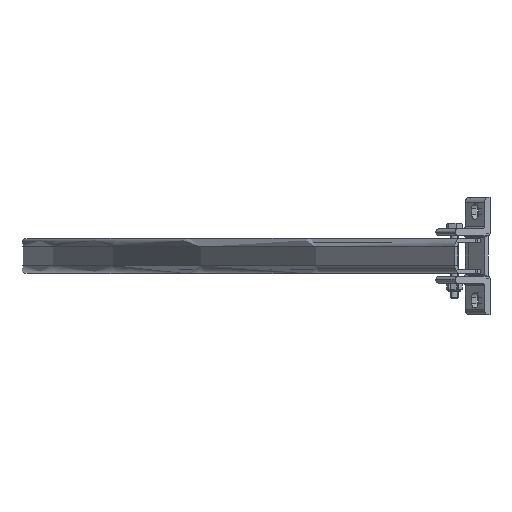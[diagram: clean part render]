
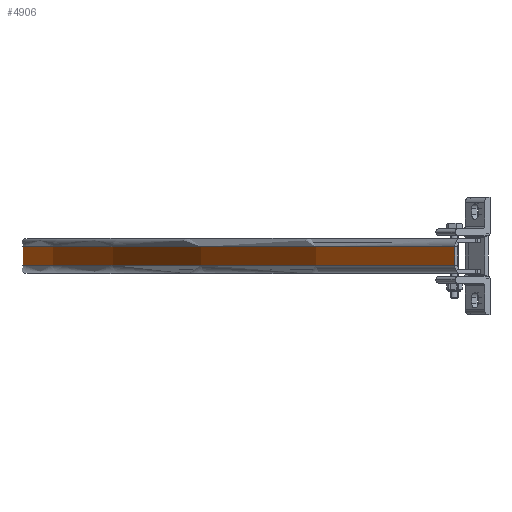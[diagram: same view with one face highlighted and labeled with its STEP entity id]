
A CAD part, front view. The second image highlights one B-rep face of the part: STEP entity #4906.
In plain terms, the highlighted cylindrical face has radius 1026 mm (diameter 2052 mm), a partial arc.
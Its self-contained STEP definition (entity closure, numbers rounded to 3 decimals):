
#833 = LINE ( 'NONE', #23777, #30354 ) ;
#1979 = CARTESIAN_POINT ( 'NONE',  ( -6.625, 1026., 0. ) ) ;
#2105 = CARTESIAN_POINT ( 'NONE',  ( -12.625, 1026., 0. ) ) ;
#2376 = DIRECTION ( 'NONE',  ( 0., 0., -1. ) ) ;
#3096 = VECTOR ( 'NONE', #39464, 1000. ) ;
#3635 = ORIENTED_EDGE ( 'NONE', *, *, #35032, .T. ) ;
#4554 = AXIS2_PLACEMENT_3D ( 'NONE', #1979, #17098, #40100 ) ;
#4906 = ADVANCED_FACE ( 'NONE', ( #40954 ), #21495, .T. ) ;
#5216 = DIRECTION ( 'NONE',  ( -1., 0., 0. ) ) ;
#6361 = VERTEX_POINT ( 'NONE', #42315 ) ;
#7089 = AXIS2_PLACEMENT_3D ( 'NONE', #16761, #5216, #2376 ) ;
#7881 = EDGE_CURVE ( 'NONE', #34900, #11342, #36259, .T. ) ;
#8647 = ORIENTED_EDGE ( 'NONE', *, *, #17057, .T. ) ;
#10862 = CARTESIAN_POINT ( 'NONE',  ( 6.625, 314.247, 738.975 ) ) ;
#11213 = EDGE_LOOP ( 'NONE', ( #13327, #8647, #3635, #25024 ) ) ;
#11342 = VERTEX_POINT ( 'NONE', #10862 ) ;
#13327 = ORIENTED_EDGE ( 'NONE', *, *, #26587, .F. ) ;
#16761 = CARTESIAN_POINT ( 'NONE',  ( 6.625, 1026., 0. ) ) ;
#17057 = EDGE_CURVE ( 'NONE', #34270, #6361, #24382, .T. ) ;
#17098 = DIRECTION ( 'NONE',  ( 1., 0., 0. ) ) ;
#21495 = CYLINDRICAL_SURFACE ( 'NONE', #23767, 1026. ) ;
#23767 = AXIS2_PLACEMENT_3D ( 'NONE', #2105, #32925, #38767 ) ;
#23777 = CARTESIAN_POINT ( 'NONE',  ( -12.625, 314.247, -738.975 ) ) ;
#24382 = CIRCLE ( 'NONE', #4554, 1026. ) ;
#25024 = ORIENTED_EDGE ( 'NONE', *, *, #7881, .T. ) ;
#25942 = DIRECTION ( 'NONE',  ( 1., 0., 0. ) ) ;
#26587 = EDGE_CURVE ( 'NONE', #34270, #11342, #44538, .T. ) ;
#30354 = VECTOR ( 'NONE', #25942, 1000. ) ;
#32925 = DIRECTION ( 'NONE',  ( -1., 0., 0. ) ) ;
#34270 = VERTEX_POINT ( 'NONE', #42805 ) ;
#34556 = CARTESIAN_POINT ( 'NONE',  ( 6.625, 314.247, -738.975 ) ) ;
#34900 = VERTEX_POINT ( 'NONE', #34556 ) ;
#35032 = EDGE_CURVE ( 'NONE', #6361, #34900, #833, .T. ) ;
#36259 = CIRCLE ( 'NONE', #7089, 1026. ) ;
#38767 = DIRECTION ( 'NONE',  ( 0., 0., 1. ) ) ;
#39464 = DIRECTION ( 'NONE',  ( 1., 0., 0. ) ) ;
#40100 = DIRECTION ( 'NONE',  ( 0., 0., 1. ) ) ;
#40207 = CARTESIAN_POINT ( 'NONE',  ( -12.625, 314.247, 738.975 ) ) ;
#40954 = FACE_OUTER_BOUND ( 'NONE', #11213, .T. ) ;
#42315 = CARTESIAN_POINT ( 'NONE',  ( -6.625, 314.247, -738.975 ) ) ;
#42805 = CARTESIAN_POINT ( 'NONE',  ( -6.625, 314.247, 738.975 ) ) ;
#44538 = LINE ( 'NONE', #40207, #3096 ) ;
